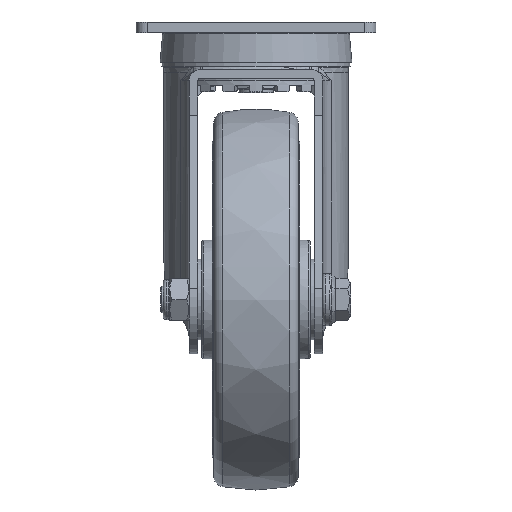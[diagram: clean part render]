
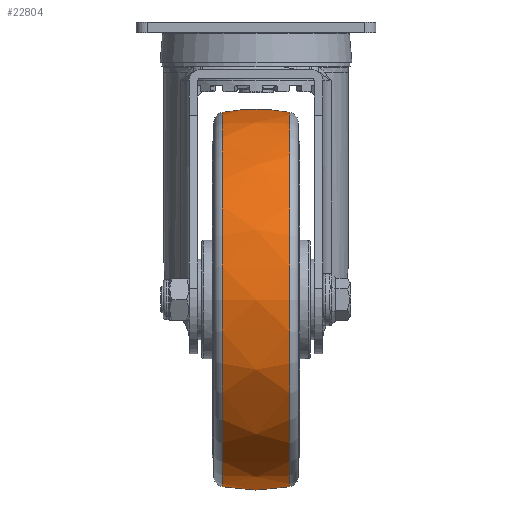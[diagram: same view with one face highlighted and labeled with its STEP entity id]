
A CAD part, left-side view. The second image highlights one B-rep face of the part: STEP entity #22804.
In plain terms, the highlighted free-form (B-spline) face has degree [2, 2] with [3, 9] control points.
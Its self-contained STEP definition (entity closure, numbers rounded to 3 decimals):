
#55=(
BOUNDED_SURFACE()
B_SPLINE_SURFACE(2,2,((#41121,#41122,#41123,#41124,#41125,#41126,#41127,
#41128,#41129),(#41130,#41131,#41132,#41133,#41134,#41135,#41136,#41137,
#41138),(#41139,#41140,#41141,#41142,#41143,#41144,#41145,#41146,#41147)),
 .UNSPECIFIED.,.F.,.T.,.F.)
B_SPLINE_SURFACE_WITH_KNOTS((3,3),(3,2,2,2,3),(-0.195,0.194),
(-3.142,-1.571,0.,1.571,3.142),
 .UNSPECIFIED.)
GEOMETRIC_REPRESENTATION_ITEM()
RATIONAL_B_SPLINE_SURFACE(((1.,0.707,1.,0.707,1.,
0.707,1.,0.707,1.),(0.981,0.694,
0.981,0.694,0.981,0.694,
0.981,0.694,0.981),(1.,0.707,
1.,0.707,1.,0.707,1.,0.707,1.)))
REPRESENTATION_ITEM('')
SURFACE()
);
#2281=FACE_OUTER_BOUND('',#3635,.T.);
#3635=EDGE_LOOP('',(#20215,#20216,#20217,#20218,#20219,#20220,#20221,#20222));
#8225=CIRCLE('',#24244,85.984);
#8226=CIRCLE('',#24245,85.984);
#8228=CIRCLE('',#24247,85.984);
#8229=CIRCLE('',#24248,80.);
#8230=CIRCLE('',#24249,85.987);
#8231=CIRCLE('',#24250,85.987);
#8232=CIRCLE('',#24251,85.987);
#11061=VERTEX_POINT('',#41114);
#11062=VERTEX_POINT('',#41115);
#11063=VERTEX_POINT('',#41117);
#11064=VERTEX_POINT('',#41148);
#11065=VERTEX_POINT('',#41150);
#11066=VERTEX_POINT('',#41152);
#14163=EDGE_CURVE('',#11061,#11062,#8225,.T.);
#14164=EDGE_CURVE('',#11063,#11061,#8226,.T.);
#14166=EDGE_CURVE('',#11062,#11063,#8228,.T.);
#14167=EDGE_CURVE('',#11062,#11064,#8229,.T.);
#14168=EDGE_CURVE('',#11065,#11064,#8230,.T.);
#14169=EDGE_CURVE('',#11066,#11065,#8231,.T.);
#14170=EDGE_CURVE('',#11064,#11066,#8232,.T.);
#20215=ORIENTED_EDGE('',*,*,#14163,.T.);
#20216=ORIENTED_EDGE('',*,*,#14167,.T.);
#20217=ORIENTED_EDGE('',*,*,#14168,.F.);
#20218=ORIENTED_EDGE('',*,*,#14169,.F.);
#20219=ORIENTED_EDGE('',*,*,#14170,.F.);
#20220=ORIENTED_EDGE('',*,*,#14167,.F.);
#20221=ORIENTED_EDGE('',*,*,#14166,.T.);
#20222=ORIENTED_EDGE('',*,*,#14164,.T.);
#22804=ADVANCED_FACE('',(#2281),#55,.F.);
#24244=AXIS2_PLACEMENT_3D('',#41116,#29086,#29087);
#24245=AXIS2_PLACEMENT_3D('',#41118,#29088,#29089);
#24247=AXIS2_PLACEMENT_3D('',#41120,#29092,#29093);
#24248=AXIS2_PLACEMENT_3D('',#41149,#29094,#29095);
#24249=AXIS2_PLACEMENT_3D('',#41151,#29096,#29097);
#24250=AXIS2_PLACEMENT_3D('',#41153,#29098,#29099);
#24251=AXIS2_PLACEMENT_3D('',#41154,#29100,#29101);
#29086=DIRECTION('center_axis',(0.,-1.,0.));
#29087=DIRECTION('ref_axis',(1.,0.,0.));
#29088=DIRECTION('center_axis',(0.,-1.,0.));
#29089=DIRECTION('ref_axis',(1.,0.,0.));
#29092=DIRECTION('center_axis',(0.,-1.,0.));
#29093=DIRECTION('ref_axis',(1.,0.,0.));
#29094=DIRECTION('center_axis',(1.,0.,0.));
#29095=DIRECTION('ref_axis',(0.,0.,
1.));
#29096=DIRECTION('center_axis',(0.,-1.,0.));
#29097=DIRECTION('ref_axis',(1.,0.,0.));
#29098=DIRECTION('center_axis',(0.,-1.,0.));
#29099=DIRECTION('ref_axis',(1.,0.,0.));
#29100=DIRECTION('center_axis',(0.,-1.,0.));
#29101=DIRECTION('ref_axis',(1.,0.,0.));
#41114=CARTESIAN_POINT('',(30.984,15.47,-127.5));
#41115=CARTESIAN_POINT('',(-55.,15.47,-41.516));
#41116=CARTESIAN_POINT('Origin',(-55.,15.47,-127.5));
#41117=CARTESIAN_POINT('',(-140.984,15.47,-127.5));
#41118=CARTESIAN_POINT('Origin',(-55.,15.47,-127.5));
#41120=CARTESIAN_POINT('Origin',(-55.,15.47,-127.5));
#41121=CARTESIAN_POINT('Ctrl Pts',(-55.,15.47,-41.516));
#41122=CARTESIAN_POINT('Ctrl Pts',(-140.984,15.47,-41.516));
#41123=CARTESIAN_POINT('Ctrl Pts',(-140.984,15.47,-127.5));
#41124=CARTESIAN_POINT('Ctrl Pts',(-140.984,15.47,-213.484));
#41125=CARTESIAN_POINT('Ctrl Pts',(-55.,15.47,-213.484));
#41126=CARTESIAN_POINT('Ctrl Pts',(30.984,15.47,-213.484));
#41127=CARTESIAN_POINT('Ctrl Pts',(30.984,15.47,-127.5));
#41128=CARTESIAN_POINT('Ctrl Pts',(30.984,15.47,-41.516));
#41129=CARTESIAN_POINT('Ctrl Pts',(-55.,15.47,-41.516));
#41130=CARTESIAN_POINT('Ctrl Pts',(-55.,0.004,
-38.467));
#41131=CARTESIAN_POINT('Ctrl Pts',(-144.033,0.004,
-38.467));
#41132=CARTESIAN_POINT('Ctrl Pts',(-144.033,0.004,
-127.5));
#41133=CARTESIAN_POINT('Ctrl Pts',(-144.033,0.004,
-216.533));
#41134=CARTESIAN_POINT('Ctrl Pts',(-55.,0.004,
-216.533));
#41135=CARTESIAN_POINT('Ctrl Pts',(34.033,0.004,
-216.533));
#41136=CARTESIAN_POINT('Ctrl Pts',(34.033,0.004,
-127.5));
#41137=CARTESIAN_POINT('Ctrl Pts',(34.033,0.004,
-38.467));
#41138=CARTESIAN_POINT('Ctrl Pts',(-55.,0.004,
-38.467));
#41139=CARTESIAN_POINT('Ctrl Pts',(-55.,-15.463,
-41.513));
#41140=CARTESIAN_POINT('Ctrl Pts',(-140.987,-15.463,
-41.513));
#41141=CARTESIAN_POINT('Ctrl Pts',(-140.987,-15.463,
-127.5));
#41142=CARTESIAN_POINT('Ctrl Pts',(-140.987,-15.463,
-213.487));
#41143=CARTESIAN_POINT('Ctrl Pts',(-55.,-15.463,
-213.487));
#41144=CARTESIAN_POINT('Ctrl Pts',(30.987,-15.463,-213.487));
#41145=CARTESIAN_POINT('Ctrl Pts',(30.987,-15.463,-127.5));
#41146=CARTESIAN_POINT('Ctrl Pts',(30.987,-15.463,-41.513));
#41147=CARTESIAN_POINT('Ctrl Pts',(-55.,-15.463,
-41.513));
#41148=CARTESIAN_POINT('',(-55.,-15.463,-41.513));
#41149=CARTESIAN_POINT('Origin',(-55.,-0.004,
-120.005));
#41150=CARTESIAN_POINT('',(30.987,-15.463,-127.5));
#41151=CARTESIAN_POINT('Origin',(-55.,-15.463,-127.5));
#41152=CARTESIAN_POINT('',(-140.987,-15.463,-127.5));
#41153=CARTESIAN_POINT('Origin',(-55.,-15.463,-127.5));
#41154=CARTESIAN_POINT('Origin',(-55.,-15.463,-127.5));
